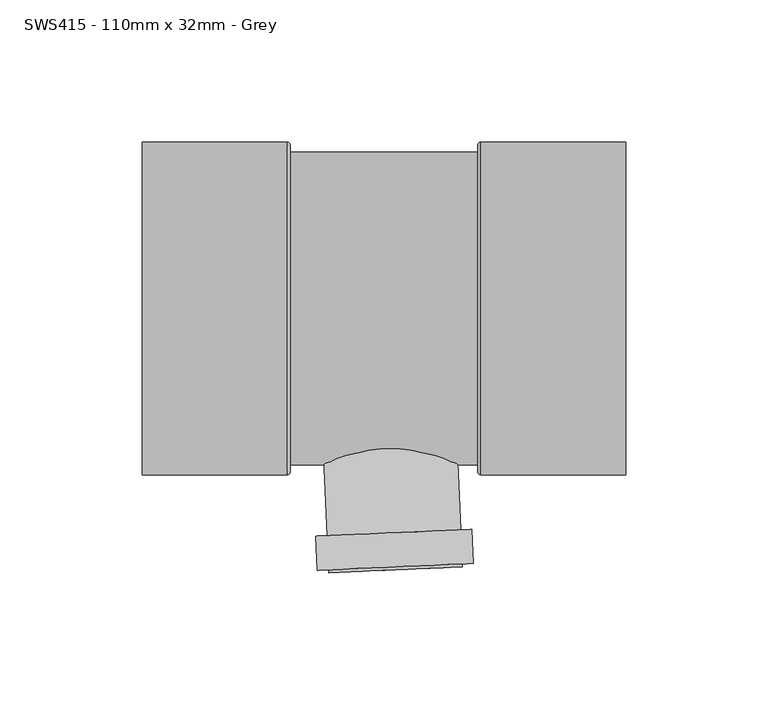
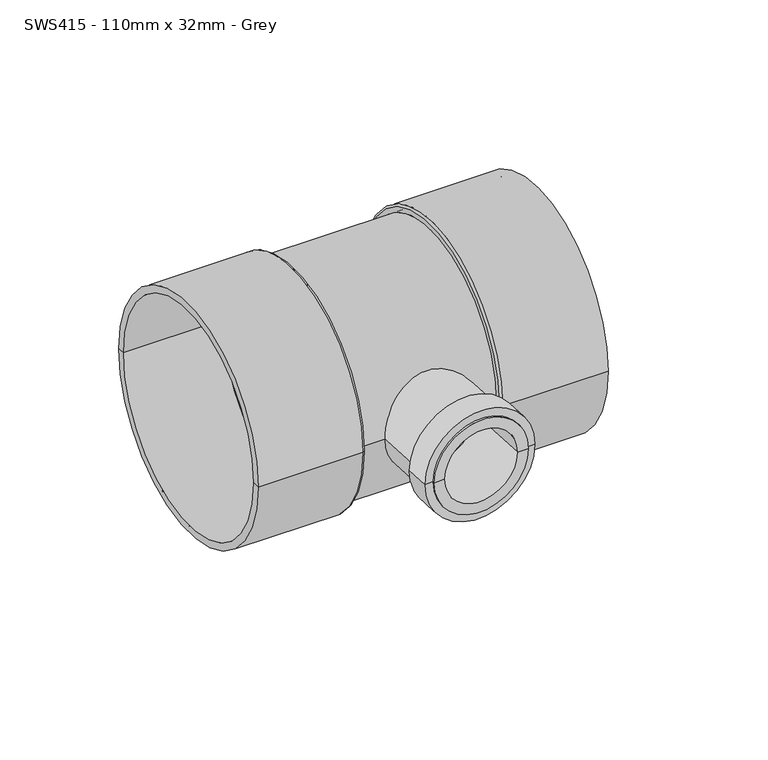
"""IFC4 building model written with IfcOpenShell, lengths in millimetres: pipe fitting geometry, MarleyPlumbingAndDrainage_PipeFitting_BossPipes_90Deg : SWS415 - 110mm x 32mm - Grey."""

from ifc_helpers import new_model, si_unit, point, frame, origin, place, context, project, spatial, polyline, circle_curve, ellipse_curve, trimmed, source, transform, mapped, element, save
from ifc_brep_helpers import plane_surface, cylinder_surface, revolved_surface, advanced_brep


def sws415_110mm_x_32mm_grey_02e9ccfc(model_context):
    return source(origin(), model_context, "Body", "AdvancedBrep", [
        advanced_brep(
        [(8.6522514, 1.0250556, 0.0), (-38.303015, -1.0250556, 0.0), (-14.8253818, 0.0, 0.0), (12.098183, -77.8997539, 0.0), (-34.8570834, -79.9498651, 0.0), (16.0943759, -77.7252764, 0.0), (-38.8532763, -80.1243427, 0.0), (16.6178085, -89.713855, 0.0), (-38.3298437, -92.1129213, 0.0), (12.6216156, -89.8883326, 0.0), (-34.3336508, -91.9384438, 0.0), (12.665235, -90.8873808, 0.0), (-34.2900314, -92.937492, 0.0), (7.4202319, -91.1163826, 0.0), (-29.0450282, -92.7084902, 0.0), (5.9371727, -57.148743, 0.0), (-30.5280874, -58.7408507, 0.0), (-12.2954574, -57.9447969, 0.0)],
        [
            (0, 1, circle_curve(frame((-14.8253818, 0.0, 0.0), z_axis=(-0.043619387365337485, 0.9990482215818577, 0.0), x_axis=(-0.9990482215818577, -0.043619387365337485, 0.0)), 23.5)),
            (1, 2),
            (2, 0),
            (1, 0, circle_curve(frame((-14.8253818, 0.0, 0.0), z_axis=(-0.043619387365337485, 0.9990482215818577, 0.0), x_axis=(-0.9990482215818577, -0.043619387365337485, 0.0)), 23.5)),
            (3, 4, circle_curve(frame((-11.3794502, -78.9248095, 0.0), z_axis=(-0.043619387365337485, 0.9990482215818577, 0.0), x_axis=(-0.9990482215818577, -0.043619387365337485, 0.0)), 23.5)),
            (4, 1),
            (0, 3),
            (4, 3, circle_curve(frame((-11.3794502, -78.9248095, 0.0), z_axis=(-0.043619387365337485, 0.9990482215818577, 0.0), x_axis=(-0.9990482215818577, -0.043619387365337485, 0.0)), 23.5)),
            (5, 6, circle_curve(frame((-11.3794502, -78.9248095, 0.0), z_axis=(-0.043619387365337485, 0.9990482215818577, 0.0), x_axis=(-0.9990482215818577, -0.043619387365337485, 0.0)), 27.5)),
            (6, 4),
            (3, 5),
            (6, 5, circle_curve(frame((-11.3794502, -78.9248095, 0.0), z_axis=(-0.043619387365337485, 0.9990482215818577, 0.0), x_axis=(-0.9990482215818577, -0.043619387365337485, 0.0)), 27.5)),
            (7, 8, circle_curve(frame((-10.8560176, -90.9133882, 0.0), z_axis=(-0.043619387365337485, 0.9990482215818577, 0.0), x_axis=(-0.9990482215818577, -0.043619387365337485, 0.0)), 27.5)),
            (8, 6),
            (5, 7),
            (8, 7, circle_curve(frame((-10.8560176, -90.9133882, 0.0), z_axis=(-0.043619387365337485, 0.9990482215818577, 0.0), x_axis=(-0.9990482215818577, -0.043619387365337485, 0.0)), 27.5)),
            (9, 10, circle_curve(frame((-10.8560176, -90.9133882, 0.0), z_axis=(-0.043619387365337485, 0.9990482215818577, 0.0), x_axis=(-0.9990482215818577, -0.043619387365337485, 0.0)), 23.5)),
            (10, 8),
            (7, 9),
            (10, 9, circle_curve(frame((-10.8560176, -90.9133882, 0.0), z_axis=(-0.043619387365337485, 0.9990482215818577, 0.0), x_axis=(-0.9990482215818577, -0.043619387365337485, 0.0)), 23.5)),
            (11, 12, circle_curve(frame((-10.8123982, -91.9124364, 0.0), z_axis=(-0.043619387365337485, 0.9990482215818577, 0.0), x_axis=(-0.9990482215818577, -0.043619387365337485, 0.0)), 23.5)),
            (12, 10),
            (9, 11),
            (12, 11, circle_curve(frame((-10.8123982, -91.9124364, 0.0), z_axis=(-0.043619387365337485, 0.9990482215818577, 0.0), x_axis=(-0.9990482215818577, -0.043619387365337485, 0.0)), 23.5)),
            (13, 14, circle_curve(frame((-10.8123982, -91.9124364, 0.0), z_axis=(-0.043619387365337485, 0.9990482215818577, 0.0), x_axis=(-0.9990482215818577, -0.043619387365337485, 0.0)), 18.25)),
            (14, 12),
            (11, 13),
            (14, 13, circle_curve(frame((-10.8123982, -91.9124364, 0.0), z_axis=(-0.043619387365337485, 0.9990482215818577, 0.0), x_axis=(-0.9990482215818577, -0.043619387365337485, 0.0)), 18.25)),
            (15, 16, circle_curve(frame((-12.2954574, -57.9447969, 0.0), z_axis=(-0.043619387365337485, 0.9990482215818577, 0.0), x_axis=(-0.9990482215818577, -0.043619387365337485, 0.0)), 18.25)),
            (16, 14),
            (13, 15),
            (16, 15, circle_curve(frame((-12.2954574, -57.9447969, 0.0), z_axis=(-0.043619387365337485, 0.9990482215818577, 0.0), x_axis=(-0.9990482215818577, -0.043619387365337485, 0.0)), 18.25)),
            (17, 16),
            (15, 17),
        ],
        [
            plane_surface(frame((-14.8253818, 0.0, 0.0), z_axis=(-0.043619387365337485, 0.9990482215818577, 0.0), x_axis=(-0.9990482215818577, -0.043619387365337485, 0.0))),
            cylinder_surface(frame((-14.8303465, 0.1137088, 0.0), z_axis=(0.043619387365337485, -0.9990482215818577, 0.0), x_axis=(-0.9990482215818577, -0.043619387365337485, 0.0)), 23.5),
            plane_surface(frame((-11.3794502, -78.9248095, 0.0), z_axis=(-0.043619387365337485, 0.9990482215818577, 0.0), x_axis=(-0.9990482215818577, -0.043619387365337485, 0.0))),
            cylinder_surface(frame((-14.8303465, 0.1137088, 0.0), z_axis=(0.043619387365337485, -0.9990482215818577, 0.0), x_axis=(-0.9990482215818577, -0.043619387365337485, 0.0)), 27.5),
            plane_surface(frame((-10.8560176, -90.9133882, 0.0), z_axis=(0.043619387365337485, -0.9990482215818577, 0.0), x_axis=(-0.9990482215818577, -0.043619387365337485, 0.0))),
            plane_surface(frame((-10.8123982, -91.9124364, 0.0), z_axis=(0.043619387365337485, -0.9990482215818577, 0.0), x_axis=(-0.9990482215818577, -0.043619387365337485, 0.0))),
            revolved_surface(polyline([(-29.045028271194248, -92.70849024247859, 0.0), (-30.52808744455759, -58.740850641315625, 0.0)]), (-14.8303465, 0.1137088, 0.0), (0.043619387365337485, -0.9990482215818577, 0.0)),
            plane_surface(frame((-12.2954574, -57.9447969, 0.0), z_axis=(0.043619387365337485, -0.9990482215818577, 0.0), x_axis=(-0.9990482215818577, -0.043619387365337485, 0.0))),
        ],
        [
            (0, [[1, 2, 3]]),
            (0, [[4, -3, -2]]),
            (1, [[5, 6, -1, 7]]),
            (1, [[8, -7, -4, -6]]),
            (2, [[9, 10, -5, 11]]),
            (2, [[12, -11, -8, -10]]),
            (3, [[13, 14, -9, 15]]),
            (3, [[16, -15, -12, -14]]),
            (4, [[17, 18, -13, 19]]),
            (4, [[20, -19, -16, -18]]),
            (1, [[21, 22, -17, 23]]),
            (1, [[24, -23, -20, -22]]),
            (5, [[25, 26, -21, 27]]),
            (5, [[28, -27, -24, -26]]),
            (6, [[29, 30, -25, 31]]),
            (6, [[32, -31, -28, -30]]),
            (7, [[33, -29, 34]]),
            (7, [[-34, -32, -33]]),
        ],
    ),
        advanced_brep(
        [(-99.8253818, -55.0, 0.0), (-99.8253818, 55.0, 0.0), (-99.8253818, 58.5, 0.0), (-99.8253818, -58.5, 0.0), (-51.3253818, -55.0, 0.0), (-51.3253818, 55.0, 0.0), (-51.3253818, 0.0, 0.0), (21.6746182, -55.0, 0.0), (21.6746182, 55.0, 0.0), (21.6746182, 0.0, 0.0), (70.1746182, -55.0, 0.0), (70.1746182, 55.0, 0.0), (70.1746182, -58.5, 0.0), (70.1746182, 58.5, 0.0), (19.1746182, -58.5, 0.0), (19.1746182, 58.5, 0.0), (18.1746182, -57.5, 0.0), (18.1746182, 57.5, 0.0), (18.1746182, -55.0, 0.0), (18.1746182, 55.0, 0.0), (-47.8253818, -55.0, 0.0), (-47.8253818, 55.0, 0.0), (-47.8253818, -57.5, 0.0), (-47.8253818, 57.5, 0.0), (-48.8253818, -58.5, 0.0), (-48.8253818, 58.5, 0.0)],
        [
            (0, 1, circle_curve(frame((-99.8253818, 0.0, 0.0), z_axis=(1.0, 0.0, 0.0), x_axis=(0.0, 1.0, 0.0)), 55.0)),
            (1, 2),
            (2, 3, circle_curve(frame((-99.8253818, 0.0, 0.0), z_axis=(-1.0, 0.0, 0.0), x_axis=(0.0, 1.0, 0.0)), 58.5)),
            (3, 0),
            (1, 0, circle_curve(frame((-99.8253818, 0.0, 0.0), z_axis=(1.0, 0.0, 0.0), x_axis=(0.0, 1.0, 0.0)), 55.0)),
            (3, 2, circle_curve(frame((-99.8253818, 0.0, 0.0), z_axis=(-1.0, 0.0, 0.0), x_axis=(0.0, 1.0, 0.0)), 58.5)),
            (4, 5, circle_curve(frame((-51.3253818, 0.0, 0.0), z_axis=(1.0, 0.0, 0.0), x_axis=(0.0, 1.0, 0.0)), 55.0)),
            (5, 1),
            (0, 4),
            (5, 4, circle_curve(frame((-51.3253818, 0.0, 0.0), z_axis=(1.0, 0.0, 0.0), x_axis=(0.0, 1.0, 0.0)), 55.0)),
            (6, 5),
            (4, 6),
            (7, 8, circle_curve(frame((21.6746182, 0.0, 0.0), z_axis=(1.0, 0.0, 0.0), x_axis=(0.0, 1.0, 0.0)), 55.0)),
            (8, 9),
            (9, 7),
            (8, 7, circle_curve(frame((21.6746182, 0.0, 0.0), z_axis=(1.0, 0.0, 0.0), x_axis=(0.0, 1.0, 0.0)), 55.0)),
            (10, 11, circle_curve(frame((70.1746182, 0.0, 0.0), z_axis=(1.0, 0.0, 0.0), x_axis=(0.0, 1.0, 0.0)), 55.0)),
            (11, 8),
            (7, 10),
            (11, 10, circle_curve(frame((70.1746182, 0.0, 0.0), z_axis=(1.0, 0.0, 0.0), x_axis=(0.0, 1.0, 0.0)), 55.0)),
            (12, 13, circle_curve(frame((70.1746182, 0.0, 0.0), z_axis=(1.0, 0.0, 0.0), x_axis=(0.0, 1.0, 0.0)), 58.5)),
            (13, 11),
            (10, 12),
            (13, 12, circle_curve(frame((70.1746182, 0.0, 0.0), z_axis=(1.0, 0.0, 0.0), x_axis=(0.0, 1.0, 0.0)), 58.5)),
            (14, 15, circle_curve(frame((19.1746182, 0.0, 0.0), z_axis=(1.0, 0.0, 0.0), x_axis=(0.0, 1.0, 0.0)), 58.5)),
            (15, 13),
            (12, 14),
            (15, 14, circle_curve(frame((19.1746182, 0.0, 0.0), z_axis=(1.0, 0.0, 0.0), x_axis=(0.0, 1.0, 0.0)), 58.5)),
            (16, 17, circle_curve(frame((18.1746182, 0.0, 0.0), z_axis=(1.0, 0.0, 0.0), x_axis=(0.0, 1.0, 0.0)), 57.5)),
            (17, 15, circle_curve(frame((19.1746182, 57.5, 0.0), z_axis=(0.0, 0.0, -1.0), x_axis=(1.0, 0.0, 0.0)), 1.0)),
            (14, 16, circle_curve(frame((19.1746182, -57.5, 0.0), z_axis=(0.0, 0.0, -1.0), x_axis=(1.0, 0.0, 0.0)), 1.0)),
            (17, 16, circle_curve(frame((18.1746182, 0.0, 0.0), z_axis=(1.0, 0.0, 0.0), x_axis=(0.0, 1.0, 0.0)), 57.5)),
            (18, 19, circle_curve(frame((18.1746182, 0.0, 0.0), z_axis=(1.0, 0.0, 0.0), x_axis=(0.0, 1.0, 0.0)), 55.0)),
            (19, 17),
            (16, 18),
            (19, 18, circle_curve(frame((18.1746182, 0.0, 0.0), z_axis=(1.0, 0.0, 0.0), x_axis=(0.0, 1.0, 0.0)), 55.0)),
            (20, 21, circle_curve(frame((-47.8253818, 0.0, 0.0), z_axis=(1.0, 0.0, 0.0), x_axis=(0.0, 1.0, 0.0)), 55.0)),
            (21, 19),
            (18, 20),
            (21, 20, circle_curve(frame((-47.8253818, 0.0, 0.0), z_axis=(1.0, 0.0, 0.0), x_axis=(0.0, 1.0, 0.0)), 55.0)),
            (22, 23, circle_curve(frame((-47.8253818, 0.0, 0.0), z_axis=(1.0, 0.0, 0.0), x_axis=(0.0, 1.0, 0.0)), 57.5)),
            (23, 21),
            (20, 22),
            (23, 22, circle_curve(frame((-47.8253818, 0.0, 0.0), z_axis=(1.0, 0.0, 0.0), x_axis=(0.0, 1.0, 0.0)), 57.5)),
            (24, 25, circle_curve(frame((-48.8253818, 0.0, 0.0), z_axis=(1.0, 0.0, 0.0), x_axis=(0.0, 1.0, 0.0)), 58.5)),
            (25, 23, circle_curve(frame((-48.8253818, 57.5, 0.0), z_axis=(0.0, 0.0, -1.0), x_axis=(1.0, 0.0, 0.0)), 1.0)),
            (22, 24, circle_curve(frame((-48.8253818, -57.5, 0.0), z_axis=(0.0, 0.0, -1.0), x_axis=(1.0, 0.0, 0.0)), 1.0)),
            (25, 24, circle_curve(frame((-48.8253818, 0.0, 0.0), z_axis=(1.0, 0.0, 0.0), x_axis=(0.0, 1.0, 0.0)), 58.5)),
            (2, 25),
            (24, 3),
        ],
        [
            plane_surface(frame((-99.8253818, 0.0, 0.0), z_axis=(-1.0, 0.0, 0.0), x_axis=(0.0, 1.0, 0.0))),
            revolved_surface(polyline([(-99.82538179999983, 55.0, 0.0), (-51.32538179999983, 55.0, 0.0)]), (2000.0, 0.0, 0.0), (-1.0, 0.0, 0.0)),
            plane_surface(frame((-51.3253818, 0.0, 0.0), z_axis=(-1.0, 0.0, 0.0), x_axis=(0.0, 1.0, 0.0))),
            plane_surface(frame((21.6746182, 0.0, 0.0), z_axis=(1.0, 0.0, 0.0), x_axis=(0.0, 1.0, 0.0))),
            revolved_surface(polyline([(21.67461819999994, 55.0, 0.0), (70.17461819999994, 55.0, 0.0)]), (2000.0, 0.0, 0.0), (-1.0, 0.0, 0.0)),
            plane_surface(frame((70.1746182, 0.0, 0.0), z_axis=(1.0, 0.0, 0.0), x_axis=(0.0, 1.0, 0.0))),
            cylinder_surface(frame((2000.0, 0.0, 0.0), z_axis=(-1.0, 0.0, 0.0), x_axis=(0.0, 1.0, 0.0)), 58.5),
            revolved_surface(trimmed(ellipse_curve(frame((19.1746182, 57.5, 0.0), z_axis=(0.0, 0.0, 1.0), x_axis=(1.0, 0.0, 0.0)), 1.0, 1.0), [point((19.1746182, 58.5, 0.0))], [point((18.1746182, 57.5, 0.0))], True, "CARTESIAN"), (2000.0, 0.0, 0.0), (-1.0, 0.0, 0.0)),
            plane_surface(frame((18.1746182, 0.0, 0.0), z_axis=(-1.0, 0.0, 0.0), x_axis=(0.0, 1.0, 0.0))),
            cylinder_surface(frame((2000.0, 0.0, 0.0), z_axis=(-1.0, 0.0, 0.0), x_axis=(0.0, 1.0, 0.0)), 55.0),
            plane_surface(frame((-47.8253818, 0.0, 0.0), z_axis=(1.0, 0.0, 0.0), x_axis=(0.0, 1.0, 0.0))),
            revolved_surface(trimmed(ellipse_curve(frame((-48.8253818, 57.5, 0.0), z_axis=(0.0, 0.0, 1.0), x_axis=(1.0, 0.0, 0.0)), 1.0, 1.0), [point((-47.8253818, 57.5, 0.0))], [point((-48.8253818, 58.5, 0.0))], True, "CARTESIAN"), (2000.0, 0.0, 0.0), (-1.0, 0.0, 0.0)),
        ],
        [
            (0, [[1, 2, 3, 4]]),
            (0, [[5, -4, 6, -2]]),
            (1, [[7, 8, -1, 9]]),
            (1, [[10, -9, -5, -8]]),
            (2, [[11, -7, 12]]),
            (2, [[-12, -10, -11]]),
            (3, [[13, 14, 15]]),
            (3, [[16, -15, -14]]),
            (4, [[17, 18, -13, 19]]),
            (4, [[20, -19, -16, -18]]),
            (5, [[21, 22, -17, 23]]),
            (5, [[24, -23, -20, -22]]),
            (6, [[25, 26, -21, 27]]),
            (6, [[28, -27, -24, -26]]),
            (7, [[29, 30, -25, 31]]),
            (7, [[32, -31, -28, -30]]),
            (8, [[33, 34, -29, 35]]),
            (8, [[36, -35, -32, -34]]),
            (9, [[37, 38, -33, 39]]),
            (9, [[40, -39, -36, -38]]),
            (10, [[41, 42, -37, 43]]),
            (10, [[44, -43, -40, -42]]),
            (11, [[45, 46, -41, 47]]),
            (11, [[48, -47, -44, -46]]),
            (6, [[-3, 49, -45, 50]]),
            (6, [[-6, -50, -48, -49]]),
        ],
    ),
    ])


if __name__ == "__main__":
    model = new_model("IFC4")
    model_context = context("Model", 3, world=origin())
    ifc_project = project(units=[si_unit("LENGTHUNIT", "METRE", prefix="MILLI")], contexts=[model_context])
    site = spatial("IfcSite", under=ifc_project)
    building = spatial("IfcBuilding", under=site)
    placement = place(None, origin())
    sws415_110mm_x_32mm_grey_shape = sws415_110mm_x_32mm_grey_02e9ccfc(model_context)
    element("IfcPipeFitting", 1, ObjectType="MarleyPlumbingAndDrainage_PipeFitting_BossPipes_90Deg : SWS415 - 110mm x 32mm - Grey", at=placement, inside=building, context=model_context, shape_type="MappedRepresentation", body=[
        mapped(sws415_110mm_x_32mm_grey_shape, transform((0.0, 0.0, 0.0), x_axis=(1.0, 0.0, 0.0), y_axis=(0.0, 1.0, 0.0), z_axis=(0.0, 0.0, 1.0))),
    ])
    save(model, "model.ifc")
